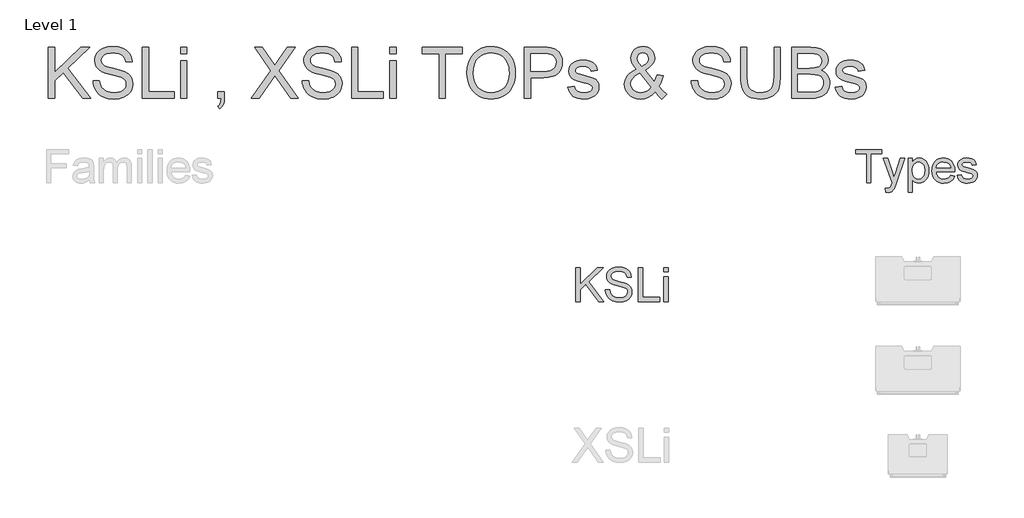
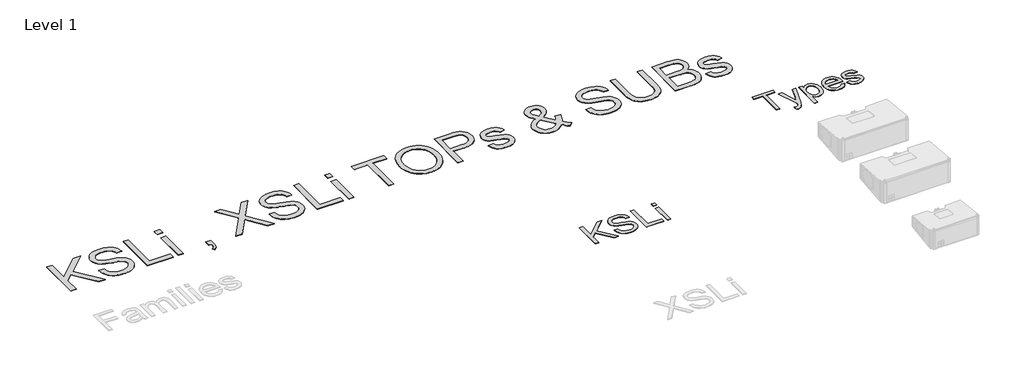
# One storey, part 51 of 52: 3 proxies.
"""IFC4 building model written with IfcOpenShell, lengths in millimetres."""

from ifc_helpers import new_model, si_unit, origin, origin_with_axes, place, context, project, spatial, polyline, outline, extrude, element, save

model = new_model("IFC4")

# Units and contexts
model_context = context("Model", 3, world=origin())
ifc_project = project(units=[si_unit("LENGTHUNIT", "METRE", prefix="MILLI")], contexts=[model_context])

# Site, building, storey
site = spatial("IfcSite", under=ifc_project)
building = spatial("IfcBuilding", under=site)
storey = spatial("IfcBuildingStorey", under=building, Name="Level 1", Elevation=0.0)

# Proxies
placement = place(None, origin())
element("IfcBuildingElementProxy", 1, Name="400mm Arial", ObjectType="400mm Arial", at=placement, inside=storey, context=model_context, shape_type="SweptSolid", body=[
    extrude(outline(polyline([(15654.0416973, 17351.3054836), (15654.0416973, 17694.0933624), (15525.4962428, 17694.0933624), (15525.4962428, 17743.0630593), (15831.5568488, 17743.0630593), (15831.5568488, 17694.0933624), (15703.0113943, 17694.0933624), (15703.0113943, 17351.3054836), (15654.0416973, 17351.3054836)])), origin_with_axes(), (0.0, 0.0, 1.0), 5.0),
    extrude(outline(polyline([(15880.5265458, 17241.1236654), (15874.4053337, 17288.2761275), (15899.2727579, 17283.9721502), (15912.3520666, 17285.3231209), (15922.5142352, 17289.3760328), (15936.7651821, 17304.4399533), (15950.1553337, 17340.4977184), (15953.9810912, 17352.3575669), (15849.9204852, 17639.0024533), (15901.5682125, 17639.0024533), (15956.7547655, 17479.2770745), (15975.9791973, 17415.386923), (15995.2036291, 17471.8168472), (16051.9204852, 17639.0024533), (16103.1856367, 17639.0024533), (16003.0464321, 17344.4191199), (15977.0312806, 17280.5289684), (15963.7128621, 17260.1328983), (15948.6250306, 17246.0015063), (15931.0982787, 17237.7522165), (15910.4630988, 17235.0024533), (15880.5265458, 17241.1236654)])), origin_with_axes(), (0.0, 0.0, 1.0), 5.0),
    extrude(outline(polyline([(16143.738667, 17241.1236654), (16143.738667, 17639.0024533), (16192.708364, 17639.0024533), (16192.708364, 17590.9891957), (16208.6809018, 17614.6730262), (16226.5663185, 17631.590048), (16247.4166973, 17641.740261), (16272.2841215, 17645.1236654), (16305.4008356, 17640.3892904), (16334.3570382, 17626.1861654), (16357.9332693, 17603.3750858), (16374.9100685, 17572.8168472), (16385.167881, 17536.7351711), (16388.5871518, 17497.353779), (16384.7255278, 17455.4736891), (16373.1406556, 17418.0171313), (16354.2031556, 17386.885029), (16328.2836481, 17363.9783055), (16298.0960297, 17349.88278), (16266.3541973, 17345.1842715), (16243.8420051, 17348.328566), (16223.7448223, 17357.7614495), (16206.5408687, 17372.000441), (16192.708364, 17389.5630593), (16192.708364, 17241.1236654), (16143.738667, 17241.1236654)]), holes=[polyline([(16192.708364, 17492.8585139), (16198.0046471, 17448.9579457), (16204.625001, 17431.9572355), (16213.8934965, 17418.2562411), (16237.3382172, 17400.1795366), (16250.7552686, 17395.6603605), (16265.302114, 17394.1539684), (16280.0581805, 17395.7141602), (16293.7203195, 17400.3947355), (16317.7628147, 17419.1170366), (16327.3242198, 17433.3141839), (16334.1537948, 17450.9425574), (16339.6174549, 17496.4929836), (16334.2853053, 17540.1544419), (16327.6201182, 17557.2866625), (16318.2888564, 17571.2865442), (16294.8800022, 17589.9371124), (16281.6153834, 17594.5997544), (16267.3106367, 17596.1539684), (16253.0507231, 17594.5011216), (16239.6336717, 17589.5425811), (16215.3281556, 17569.7084192), (16205.4319968, 17554.9882191), (16198.3633119, 17537.2731682), (16194.1221009, 17516.5632665), (16192.708364, 17492.8585139)])]), origin_with_axes(), (0.0, 0.0, 1.0), 5.0),
    extrude(outline(polyline([(16645.1041973, 17437.0024533), (16693.1174549, 17430.8812411), (16685.7558604, 17411.6508316), (16675.8178573, 17394.7039211), (16663.3034456, 17380.0405096), (16648.2126253, 17367.6605972), (16630.7008178, 17357.8272047), (16610.9234445, 17350.8033529), (16564.5720003, 17345.1842715), (16534.1871163, 17347.6082475), (16507.1139037, 17354.8801758), (16483.3523625, 17367.0000563), (16462.9024928, 17383.9678889), (16446.4577129, 17405.3114317), (16434.7114416, 17430.5584429), (16427.6636788, 17459.7089223), (16425.3144246, 17492.7628699), (16427.6875898, 17526.937645), (16434.8070856, 17557.0595082), (16446.6729118, 17583.1284594), (16463.2850685, 17605.1444987), (16483.6811386, 17622.6353841), (16506.8987049, 17635.1288737), (16532.9377674, 17642.6249675), (16561.7983261, 17645.1236654), (16589.7293453, 17642.6309452), (16614.9883119, 17635.1527847), (16637.5752259, 17622.6891839), (16657.4900875, 17605.2401427), (16673.7465683, 17583.2719253), (16685.3583403, 17557.2507961), (16692.3254035, 17527.1767549), (16694.6477579, 17493.0498018), (16694.3608261, 17479.8509381), (16474.2841215, 17479.8509381), (16477.1205621, 17460.3096858), (16482.7605657, 17443.1953983), (16491.2041322, 17428.5080759), (16502.4512617, 17416.2477184), (16530.8694672, 17399.6774059), (16565.5284397, 17394.1539684), (16591.5914132, 17396.7124438), (16613.5416973, 17404.3878699), (16631.379292, 17417.6584665), (16645.1041973, 17437.0024533)]), holes=[polyline([(16474.2841215, 17528.8206351), (16645.6780609, 17528.8206351), (16639.0547181, 17554.6923207), (16626.0710534, 17573.199423), (16612.7167683, 17583.2420366), (16597.5213375, 17590.4153321), (16561.6070382, 17596.1539684), (16528.5979236, 17591.5750148), (16501.3035344, 17577.838154), (16482.3301679, 17556.4258671), (16474.2841215, 17528.8206351)])]), origin_with_axes(), (0.0, 0.0, 1.0), 5.0),
    extrude(outline(polyline([(16725.2538185, 17437.0024533), (16774.2235155, 17443.1236654), (16781.9467636, 17422.1776427), (16796.8911291, 17406.7789684), (16819.152256, 17397.3102184), (16848.8257882, 17394.1539684), (16878.1406556, 17397.0471976), (16898.7519246, 17405.7268851), (16910.9465268, 17418.3040631), (16915.0113943, 17432.8897639), (16910.9226159, 17445.371298), (16898.6562806, 17454.8878699), (16848.2519246, 17468.8518851), (16774.5104473, 17492.8106919), (16755.8479236, 17504.8498728), (16742.3262617, 17520.7865442), (16734.1128384, 17539.6044893), (16731.3750306, 17560.2874911), (16733.5748412, 17579.2608576), (16740.1742731, 17596.775654), (16750.5755515, 17612.1384618), (16764.1809018, 17624.6558624), (16795.3130041, 17639.1459192), (16837.4441594, 17645.1236654), (16869.3175022, 17642.7206114), (16897.0303337, 17635.5114495), (16919.3153715, 17624.2015536), (16934.9053337, 17609.496298), (16945.2348791, 17590.3077326), (16951.738667, 17565.5479078), (16902.76897, 17559.4266957), (16896.5879804, 17574.8373254), (16884.3575117, 17586.4461086), (16865.9580089, 17593.7270035), (16841.269917, 17596.1539684), (16813.1505988, 17593.8346029), (16794.4043867, 17586.8765063), (16783.8596424, 17576.8338927), (16780.3447276, 17565.260976), (16786.1790079, 17551.010029), (16804.4470003, 17540.2022639), (16846.6259776, 17529.7770745), (16918.5023981, 17506.7268851), (16937.48772, 17495.7039211), (16951.8821329, 17480.6160896), (16960.9563517, 17461.4155688), (16963.9810912, 17438.0545366), (16960.43031, 17413.9044419), (16949.7779662, 17391.1890063), (16932.4305467, 17371.6895982), (16908.7945382, 17357.1875858), (16880.2448223, 17348.1851), (16848.1562806, 17345.1842715), (16821.8003976, 17346.630886), (16798.7800969, 17350.9707298), (16779.0953786, 17358.2038027), (16762.7462428, 17368.3301048), (16749.3919577, 17381.3018141), (16738.691792, 17397.0711086), (16730.6457456, 17415.6379883), (16725.2538185, 17437.0024533)])), origin_with_axes(), (0.0, 0.0, 1.0), 5.0),
])
element("IfcBuildingElementProxy", 2, Name="400mm Arial", ObjectType="400mm Arial", at=placement, inside=storey, context=model_context, shape_type="SweptSolid", body=[
    extrude(outline(polyline([(12208.4691439, 15943.8997901), (12208.4691439, 16345.7250307), (12258.697299, 16345.7250307), (12258.697299, 16149.0307906), (12464.7112163, 16345.7250307), (12534.9521519, 16345.7250307), (12361.9985632, 16180.5214894), (12541.2306713, 15943.8997901), (12479.8189036, 15943.8997901), (12326.3875861, 16146.578244), (12258.697299, 16082.0272165), (12258.697299, 15943.8997901), (12208.4691439, 15943.8997901)])), origin_with_axes(), (0.0, 0.0, 1.0), 5.0),
    extrude(outline(polyline([(12560.0662294, 16082.0272165), (12610.2943845, 16082.0272165), (12616.0578691, 16054.154024), (12626.4811923, 16031.7500105), (12642.7415765, 16013.9690474), (12666.016244, 15999.9650062), (12694.465785, 15990.8783209), (12726.2507894, 15987.8494258), (12754.2343465, 15990.1425569), (12778.7352874, 15997.0219502), (12798.5886524, 16007.9112573), (12812.6294819, 16022.2341296), (12820.9804032, 16038.6784548), (12823.7640436, 16055.9321204), (12821.6793789, 16072.7443275), (12815.425385, 16087.2756663), (12802.7211935, 16099.6732896), (12781.2859359, 16110.08435), (12708.1509952, 16129.2632647), (12660.1423949, 16141.9551936), (12629.4242483, 16154.0339857), (12604.4205353, 16170.932032), (12586.7008859, 16191.4107964), (12576.1426726, 16215.0288205), (12572.6232682, 16241.3446459), (12576.9765385, 16270.7629428), (12590.0363493, 16298.1946769), (12611.4593442, 16321.444819), (12640.9021665, 16338.3183399), (12676.2433635, 16348.5822475), (12715.3614823, 16352.0035501), (12757.7414882, 16348.422832), (12794.8239933, 16337.6806777), (12825.2846225, 16319.9978165), (12847.7990006, 16295.5949775), (12862.0482965, 16265.9927396), (12867.7136793, 16232.7116818), (12817.4855242, 16232.7116818), (12808.2639489, 16262.6818016), (12799.9007648, 16274.5398646), (12789.0359832, 16284.313263), (12758.992287, 16297.409862), (12717.3235196, 16301.775395), (12674.6737337, 16297.4589129), (12658.3704299, 16292.0633103), (12645.4148523, 16284.5094667), (12628.4922805, 16265.4531793), (12622.8514233, 16242.8161739), (12626.8490743, 16223.5146319), (12638.8420273, 16207.9900117), (12667.1934664, 16194.1085977), (12720.8551868, 16179.9328782), (12776.2336898, 16166.4683972), (12809.7354768, 16154.7206988), (12838.3689588, 16136.4982773), (12858.3449511, 16114.0084247), (12870.0803868, 16087.4963955), (12873.9921987, 16057.2074446), (12869.4917756, 16026.2440433), (12855.9905064, 15997.1200521), (12834.040214, 15972.0550255), (12804.1927214, 15953.2685182), (12768.2997014, 15941.5330826), (12728.2128267, 15937.6212707), (12679.0024785, 15941.8396509), (12638.4986708, 15954.4947916), (12606.2354198, 15975.6357435), (12581.7467417, 16005.3115578), (12566.0259178, 16041.4620952), (12560.0662294, 16082.0272165)])), origin_with_axes(), (0.0, 0.0, 1.0), 5.0),
    extrude(outline(polyline([(12949.3344313, 15943.8997901), (12949.3344313, 16345.7250307), (12999.5625863, 16345.7250307), (12999.5625863, 15994.1279452), (13200.4752066, 15994.1279452), (13200.4752066, 15943.8997901), (12949.3344313, 15943.8997901)])), origin_with_axes(), (0.0, 0.0, 1.0), 5.0),
    extrude(outline(polyline([(13250.7033617, 16295.4968756), (13250.7033617, 16345.7250307), (13300.9315168, 16345.7250307), (13300.9315168, 16295.4968756), (13250.7033617, 16295.4968756)])), origin_with_axes(), (0.0, 0.0, 1.0), 5.0),
    extrude(outline(polyline([(13250.7033617, 15943.8997901), (13250.7033617, 16238.9902012), (13300.9315168, 16238.9902012), (13300.9315168, 15943.8997901), (13250.7033617, 15943.8997901)])), origin_with_axes(), (0.0, 0.0, 1.0), 5.0),
])
element("IfcBuildingElementProxy", 3, Name="600mm Arial", ObjectType="600mm Arial", at=placement, inside=storey, context=model_context, shape_type="SweptSolid", body=[
    extrude(outline(polyline([(5966.3550777, 18351.3054836), (5966.3550777, 18954.0433445), (6041.6973103, 18954.0433445), (6041.6973103, 18659.0019843), (6350.7181862, 18954.0433445), (6456.0795896, 18954.0433445), (6196.6492066, 18706.2380325), (6465.4973687, 18351.3054836), (6373.3797171, 18351.3054836), (6143.2327409, 18655.3231644), (6041.6973103, 18558.4966233), (6041.6973103, 18351.3054836), (5966.3550777, 18351.3054836)])), origin_with_axes(), (0.0, 0.0, 1.0), 5.0),
    extrude(outline(polyline([(6493.7507059, 18558.4966233), (6569.0929386, 18558.4966233), (6577.7381654, 18516.6868345), (6593.3731502, 18483.0808142), (6617.7637265, 18456.4093696), (6652.6757279, 18435.4033077), (6695.3500393, 18421.7732797), (6743.0275459, 18417.2299371), (6785.0028815, 18420.6696338), (6821.7542928, 18430.9887237), (6851.5343403, 18447.3226843), (6872.5955846, 18468.8069928), (6885.1219665, 18493.4734806), (6889.2974272, 18519.353979), (6886.1704302, 18544.5722897), (6876.7894393, 18566.369298), (6857.733152, 18584.9657328), (6825.5802656, 18600.5823235), (6715.8778546, 18629.3506955), (6643.8649541, 18648.3885888), (6597.7877342, 18666.506777), (6560.2821648, 18691.8538465), (6533.7026906, 18722.5719931), (6517.8653707, 18757.9990292), (6512.5862641, 18797.4727673), (6514.2187404, 18819.9089705), (6519.1161695, 18841.6002126), (6527.2785513, 18862.5464937), (6538.7058858, 18882.7478138), (6553.2694142, 18901.3810369), (6570.840378, 18917.6230269), (6591.4187771, 18931.4737841), (6615.0046116, 18942.9333082), (6668.0164071, 18958.3291697), (6726.6935853, 18963.4611235), (6790.2635941, 18958.0900464), (6845.8873517, 18941.976815), (6870.2227457, 18929.9746649), (6891.5782955, 18915.4525232), (6909.9540012, 18898.4103897), (6925.3498627, 18878.8482647), (6937.6463184, 18857.336365), (6946.7238066, 18834.4449078), (6952.5823274, 18810.1738932), (6955.2218807, 18784.5233211), (6879.8796481, 18784.5233211), (6874.8396647, 18808.5644095), (6866.0472851, 18829.4785009), (6853.502509, 18847.2655954), (6837.2053366, 18861.9256929), (6816.8522653, 18873.385217), (6792.1397922, 18881.5705914), (6763.0679176, 18886.4818161), (6729.6366412, 18888.1188909), (6695.1385071, 18886.5002102), (6665.6619623, 18881.6441678), (6641.2070067, 18873.5507639), (6621.7736403, 18862.2199985), (6606.96639, 18848.5991676), (6596.3897826, 18833.6355674), (6590.0438182, 18817.329198), (6587.9284967, 18799.6800593), (6589.4276158, 18784.4957299), (6593.9249732, 18770.7277463), (6601.4205689, 18758.3761083), (6611.9144028, 18747.440816), (6628.4323044, 18737.0849378), (6654.4415614, 18726.6186951), (6734.934142, 18705.3551157), (6818.0018965, 18685.1583942), (6868.254577, 18667.5368466), (6911.2048, 18640.2032144), (6927.8100735, 18624.1359682), (6941.1687885, 18606.4684354), (6951.4372947, 18587.2925864), (6958.7719419, 18566.7003917), (6964.6396598, 18521.2669653), (6962.9520011, 18497.699525), (6957.8890252, 18474.8218635), (6949.4507319, 18452.6339806), (6937.6371213, 18431.1358765), (6922.6551271, 18411.1598842), (6904.7116828, 18393.5383366), (6883.8067884, 18378.2712338), (6859.9404439, 18365.3585758), (6833.8070267, 18355.0900696), (6806.1009139, 18347.7554223), (6745.9706018, 18341.8877045), (6707.4303643, 18343.4695971), (6672.1550795, 18348.2152748), (6640.1447474, 18356.1247377), (6611.399368, 18367.1979858), (6585.7441974, 18381.4534131), (6563.0044915, 18398.9094137), (6543.1802505, 18419.5659878), (6526.2714743, 18443.4231352), (6512.6506434, 18469.7083037), (6502.6902384, 18497.6489413), (6496.3902593, 18527.2450478), (6493.7507059, 18558.4966233)])), origin_with_axes(), (0.0, 0.0, 1.0), 5.0),
    extrude(outline(polyline([(7077.6530087, 18351.3054836), (7077.6530087, 18954.0433445), (7152.9952413, 18954.0433445), (7152.9952413, 18426.6477162), (7454.3641717, 18426.6477162), (7454.3641717, 18351.3054836), (7077.6530087, 18351.3054836)])), origin_with_axes(), (0.0, 0.0, 1.0), 5.0),
    extrude(outline(polyline([(7529.7064044, 18351.3054836), (7529.7064044, 18793.9411002), (7605.048637, 18793.9411002), (7605.048637, 18351.3054836), (7529.7064044, 18351.3054836)])), origin_with_axes(), (0.0, 0.0, 1.0), 5.0),
    extrude(outline(polyline([(7529.7064044, 18878.7011119), (7529.7064044, 18954.0433445), (7605.048637, 18954.0433445), (7605.048637, 18878.7011119), (7529.7064044, 18878.7011119)])), origin_with_axes(), (0.0, 0.0, 1.0), 5.0),
    extrude(outline(polyline([(7972.342021, 18351.3054836), (7972.342021, 18426.6477162), (8047.6842536, 18426.6477162), (8047.6842536, 18351.3054836), (8044.2997392, 18308.2081078), (8034.1461961, 18274.2709938), (8016.6350132, 18248.2433426), (7991.1775791, 18228.8743556), (7972.342021, 18257.1276928), (7988.6759815, 18270.7761148), (8000.006747, 18289.6484612), (8006.8861403, 18315.804871), (8009.8659845, 18351.3054836), (7972.342021, 18351.3054836)])), origin_with_axes(), (0.0, 0.0, 1.0), 5.0),
    extrude(outline(polyline([(8367.8887422, 18351.3054836), (8600.2430103, 18679.7505289), (8405.5598585, 18954.0433445), (8495.9116765, 18954.0433445), (8605.5405111, 18799.6800593), (8631.6969209, 18760.5742032), (8642.4758634, 18739.4945649), (8685.738786, 18800.7101289), (8794.1903982, 18954.0433445), (8885.8665914, 18954.0433445), (8691.1834395, 18678.8676121), (8923.5377077, 18351.3054836), (8833.1858897, 18351.3054836), (8678.3811461, 18569.6802359), (8646.1546833, 18615.0032977), (8610.690859, 18565.265652), (8459.5649354, 18351.3054836), (8367.8887422, 18351.3054836)])), origin_with_axes(), (0.0, 0.0, 1.0), 5.0),
    extrude(outline(polyline([(8970.6266031, 18558.4966233), (9045.9688357, 18558.4966233), (9054.6140626, 18516.6868345), (9070.2490474, 18483.0808142), (9094.6396236, 18456.4093696), (9129.551625, 18435.4033077), (9172.2259364, 18421.7732797), (9219.903443, 18417.2299371), (9261.8787786, 18420.6696338), (9298.63019, 18430.9887237), (9328.4102375, 18447.3226843), (9349.4714817, 18468.8069928), (9361.9978636, 18493.4734806), (9366.1733243, 18519.353979), (9363.0463273, 18544.5722897), (9353.6653364, 18566.369298), (9334.6090491, 18584.9657328), (9302.4561627, 18600.5823235), (9192.7537518, 18629.3506955), (9120.7408512, 18648.3885888), (9074.6636313, 18666.506777), (9037.1580619, 18691.8538465), (9010.5785877, 18722.5719931), (8994.7412679, 18757.9990292), (8989.4621612, 18797.4727673), (8991.0946376, 18819.9089705), (8995.9920666, 18841.6002126), (9004.1544484, 18862.5464937), (9015.5817829, 18882.7478138), (9030.1453114, 18901.3810369), (9047.7162752, 18917.6230269), (9068.2946743, 18931.4737841), (9091.8805087, 18942.9333082), (9144.8923042, 18958.3291697), (9203.5694824, 18963.4611235), (9267.1394912, 18958.0900464), (9322.7632488, 18941.976815), (9347.0986428, 18929.9746649), (9368.4541927, 18915.4525232), (9386.8298983, 18898.4103897), (9402.2257598, 18878.8482647), (9414.5222155, 18857.336365), (9423.5997037, 18834.4449078), (9429.4582245, 18810.1738932), (9432.0977778, 18784.5233211), (9356.7555452, 18784.5233211), (9351.7155619, 18808.5644095), (9342.9231822, 18829.4785009), (9330.3784061, 18847.2655954), (9314.0812338, 18861.9256929), (9293.7281624, 18873.385217), (9269.0156894, 18881.5705914), (9239.9438147, 18886.4818161), (9206.5125384, 18888.1188909), (9172.0144043, 18886.5002102), (9142.5378594, 18881.6441678), (9118.0829038, 18873.5507639), (9098.6495374, 18862.2199985), (9083.8422871, 18848.5991676), (9073.2656797, 18833.6355674), (9066.9197153, 18817.329198), (9064.8043938, 18799.6800593), (9066.303513, 18784.4957299), (9070.8008704, 18770.7277463), (9078.296466, 18758.3761083), (9088.7902999, 18747.440816), (9105.3082015, 18737.0849378), (9131.3174586, 18726.6186951), (9211.8100391, 18705.3551157), (9294.8777936, 18685.1583942), (9345.1304742, 18667.5368466), (9388.0806971, 18640.2032144), (9404.6859707, 18624.1359682), (9418.0446856, 18606.4684354), (9428.3131918, 18587.2925864), (9435.6478391, 18566.7003917), (9441.5155569, 18521.2669653), (9439.8278982, 18497.699525), (9434.7649223, 18474.8218635), (9426.326629, 18452.6339806), (9414.5130184, 18431.1358765), (9399.5310242, 18411.1598842), (9381.5875799, 18393.5383366), (9360.6826855, 18378.2712338), (9336.8163411, 18365.3585758), (9310.6829238, 18355.0900696), (9282.9768111, 18347.7554223), (9222.846499, 18341.8877045), (9184.3062614, 18343.4695971), (9149.0309766, 18348.2152748), (9117.0206445, 18356.1247377), (9088.2752651, 18367.1979858), (9062.6200945, 18381.4534131), (9039.8803887, 18398.9094137), (9020.0561476, 18419.5659878), (9003.1473714, 18443.4231352), (8989.5265406, 18469.7083037), (8979.5661355, 18497.6489413), (8973.2661564, 18527.2450478), (8970.6266031, 18558.4966233)])), origin_with_axes(), (0.0, 0.0, 1.0), 5.0),
    extrude(outline(polyline([(9554.5289058, 18351.3054836), (9554.5289058, 18954.0433445), (9629.8711384, 18954.0433445), (9629.8711384, 18426.6477162), (9931.2400689, 18426.6477162), (9931.2400689, 18351.3054836), (9554.5289058, 18351.3054836)])), origin_with_axes(), (0.0, 0.0, 1.0), 5.0),
    extrude(outline(polyline([(10006.5823015, 18878.7011119), (10006.5823015, 18954.0433445), (10081.9245341, 18954.0433445), (10081.9245341, 18878.7011119), (10006.5823015, 18878.7011119)])), origin_with_axes(), (0.0, 0.0, 1.0), 5.0),
    extrude(outline(polyline([(10006.5823015, 18351.3054836), (10006.5823015, 18793.9411002), (10081.9245341, 18793.9411002), (10081.9245341, 18351.3054836), (10006.5823015, 18351.3054836)])), origin_with_axes(), (0.0, 0.0, 1.0), 5.0),
    extrude(outline(polyline([(10590.4846042, 18351.3054836), (10590.4846042, 18878.7011119), (10392.7112436, 18878.7011119), (10392.7112436, 18954.0433445), (10863.6001974, 18954.0433445), (10863.6001974, 18878.7011119), (10665.8268368, 18878.7011119), (10665.8268368, 18351.3054836), (10590.4846042, 18351.3054836)])), origin_with_axes(), (0.0, 0.0, 1.0), 5.0),
    extrude(outline(polyline([(10920.1068719, 18644.7281629), (10925.1284611, 18715.4258853), (10940.1932288, 18778.0118098), (10965.301175, 18832.4859362), (10981.62134, 18856.6810752), (11000.4522997, 18878.8482647), (11043.5404783, 18915.8663904), (11092.4595866, 18942.3079088), (11147.2096246, 18958.1728199), (11207.7905921, 18963.4611235), (11248.3403851, 18960.9779201), (11286.8484329, 18953.5283097), (11323.3147357, 18941.1122923), (11357.7392934, 18923.7298681), (11389.1564158, 18901.9052687), (11416.6004126, 18876.1627261), (11440.0712839, 18846.5022402), (11459.5690296, 18812.9238111), (11474.8913147, 18776.1907939), (11485.8358041, 18737.0665437), (11492.4024977, 18695.5510606), (11494.5913956, 18651.6443444), (11492.2875346, 18607.1582142), (11485.3759516, 18565.081711), (11473.8566466, 18525.4148348), (11457.7296197, 18488.1575858), (11437.3765483, 18454.2940481), (11413.17911, 18424.8083062), (11385.137305, 18399.70036), (11353.251133, 18378.9702096), (11318.7759916, 18362.7466136), (11282.9672778, 18351.1583308), (11245.8249919, 18344.2053611), (11207.3491337, 18341.8877045), (11166.091168, 18344.4490829), (11127.0772824, 18352.1332181), (11090.307477, 18364.94011), (11055.7817517, 18382.8697588), (11024.4014175, 18405.227787), (10997.0677853, 18431.3198175), (10973.780855, 18461.1458503), (10954.5406267, 18494.7058853), (10939.475859, 18530.6525547), (10928.7153106, 18567.6384908), (10922.2589816, 18605.6636936), (10920.1068719, 18644.7281629)]), holes=[polyline([(10995.4491045, 18643.9923989), (10999.2152964, 18594.043221), (11010.5138722, 18549.7042436), (11029.3448318, 18510.9754665), (11055.7081753, 18477.8568899), (11087.7552956, 18451.3325981), (11123.6375857, 18432.3866753), (11163.3550456, 18421.0191217), (11206.9076753, 18417.2299371), (11251.2052661, 18421.0559099), (11291.3917755, 18432.5338281), (11327.4672037, 18451.6636919), (11359.4315505, 18478.4455011), (11385.601756, 18512.2630535), (11404.2947599, 18552.5001467), (11415.5105622, 18599.1567808), (11419.249163, 18652.2329556), (11417.6488763, 18686.7126956), (11412.8480162, 18718.9299614), (11404.8465829, 18748.8847528), (11393.6445761, 18776.57707), (11379.3661562, 18801.6436294), (11362.1354832, 18823.7211477), (11341.9525573, 18842.8096247), (11318.8173783, 18858.9090605), (11293.4473162, 18871.6883613), (11266.5597409, 18880.8164333), (11238.1546523, 18886.2932765), (11208.2320505, 18888.1188909), (11166.1923355, 18884.6010194), (11127.187647, 18874.0474046), (11091.2179849, 18856.4580467), (11058.2833493, 18831.8329457), (11030.7933672, 18798.985682), (11011.1576657, 18756.7298364), (10999.3762448, 18705.0654087), (10995.4491045, 18643.9923989)])]), origin_with_axes(), (0.0, 0.0, 1.0), 5.0),
    extrude(outline(polyline([(11598.1869654, 18351.3054836), (11598.1869654, 18954.0433445), (11821.5649129, 18954.0433445), (11873.583427, 18952.6086047), (11911.6224253, 18948.3043853), (11951.7767451, 18937.5806252), (11984.8309423, 18920.1246245), (12011.4472047, 18895.145437), (12032.2877197, 18861.8521165), (12045.7522007, 18822.5807135), (12050.2403611, 18779.6672788), (12047.2099332, 18742.6675471), (12038.1186493, 18708.6292655), (12022.9665097, 18677.5524339), (12001.7535141, 18649.4370525), (11972.6310557, 18626.1317281), (11933.7505273, 18609.4850678), (11885.111929, 18599.4970716), (11826.7152608, 18596.1677396), (11673.529198, 18596.1677396), (11673.529198, 18351.3054836), (11598.1869654, 18351.3054836)]), holes=[polyline([(11673.529198, 18671.5099722), (11831.1298448, 18671.5099722), (11867.3662213, 18673.2390176), (11897.9372151, 18678.4261537), (11922.8428262, 18687.0713806), (11942.0830545, 18699.1746982), (11956.4396494, 18714.4142099), (11966.69436, 18732.4680188), (11972.8471864, 18753.336125), (11974.8981285, 18777.0185284), (11970.0604802, 18810.8636719), (11955.5475355, 18839.4113148), (11933.1619161, 18860.8956233), (11904.7062438, 18873.5507639), (11875.6435662, 18877.4135249), (11829.3640112, 18878.7011119), (11673.529198, 18878.7011119), (11673.529198, 18671.5099722)])]), origin_with_axes(), (0.0, 0.0, 1.0), 5.0),
    extrude(outline(polyline([(12116.1648146, 18483.1543906), (12191.5070472, 18492.5721697), (12196.0595869, 18475.3920805), (12203.3896357, 18460.3457069), (12213.4971935, 18447.4330489), (12226.3822604, 18436.6541065), (12242.0816245, 18428.1560324), (12260.6320741, 18422.0859794), (12306.2862297, 18417.2299371), (12351.3885623, 18421.6813092), (12368.9181394, 18427.2455244), (12383.0999903, 18435.0354257), (12401.8619721, 18454.3860186), (12406.5524675, 18465.2201434), (12408.115966, 18476.8268203), (12406.5432705, 18486.9987575), (12401.8251839, 18496.0302605), (12382.9528375, 18510.6719639), (12354.7362885, 18520.2368958), (12305.4033129, 18532.1562724), (12236.646168, 18552.0402942), (12191.9485056, 18569.0180483), (12163.2353159, 18587.5409068), (12142.4315891, 18612.0602418), (12129.7948425, 18641.0125548), (12125.5825937, 18672.8343474), (12128.9671081, 18702.0257837), (12139.1206511, 18728.9731398), (12155.1235179, 18752.609558), (12176.0560034, 18771.8681805), (12196.8597303, 18783.9898922), (12223.9542392, 18794.1618294), (12255.2793911, 18801.0596168), (12288.7750468, 18803.3588792), (12337.8137167, 18799.6616652), (12380.45124, 18788.570023), (12414.7378419, 18771.1692047), (12438.723748, 18748.544462), (12454.6162502, 18719.0219319), (12464.6226405, 18680.9277513), (12389.2804078, 18671.5099722), (12379.7706583, 18695.2199668), (12360.9534942, 18713.0806376), (12332.6449747, 18724.2826444), (12294.6611587, 18728.0166466), (12251.3982361, 18724.4481913), (12222.5562876, 18713.7428252), (12206.3326916, 18698.2917814), (12200.9248263, 18680.4862929), (12203.1689065, 18668.89801), (12209.901147, 18658.5605259), (12221.4158534, 18649.3266879), (12238.0073314, 18641.9322598), (12302.9017154, 18625.8926048), (12413.4870431, 18590.4287804), (12442.6968735, 18573.4694205), (12464.8433697, 18550.2560666), (12478.8044914, 18520.7151424), (12483.4581986, 18484.7730714), (12477.995151, 18447.6169899), (12461.6060081, 18412.6682004), (12434.9161693, 18382.6674237), (12398.5510341, 18360.3553807), (12354.6259239, 18346.5046235), (12305.2561601, 18341.8877045), (12264.7063672, 18344.1133906), (12229.2885281, 18350.7904488), (12199.0026429, 18361.9188791), (12173.8487115, 18377.4986816), (12153.302502, 18397.4562799), (12136.8397828, 18421.7180974), (12124.4605536, 18450.2841344), (12116.1648146, 18483.1543906)])), origin_with_axes(), (0.0, 0.0, 1.0), 5.0),
    extrude(outline(polyline([(13149.3246099, 18425.7647994), (13111.0280942, 18389.0685704), (13069.4206405, 18362.8569782), (13024.4286725, 18347.1300229), (12975.9786138, 18341.8877045), (12932.0167153, 18345.7688595), (12892.8372828, 18357.4123247), (12858.4403163, 18376.8180999), (12828.8258157, 18403.9861853), (12809.5763903, 18430.0414276), (12795.8268007, 18457.586592), (12787.577047, 18486.6216784), (12784.8271291, 18517.146687), (12787.0390196, 18544.2136048), (12793.674691, 18569.9377533), (12804.7341435, 18594.3191325), (12820.217377, 18617.3577425), (12840.0968003, 18639.0443861), (12864.3448223, 18659.3698663), (12892.961443, 18678.3341832), (12925.9466624, 18695.9373367), (12893.0764061, 18738.4644953), (12873.3395371, 18772.1624861), (12863.4619055, 18800.9308581), (12860.1693617, 18828.6691605), (12862.7629297, 18855.0003143), (12870.5436339, 18879.5472404), (12883.5114743, 18902.3099389), (12901.6664507, 18923.2884097), (12923.7485675, 18940.863972), (12948.4978287, 18953.4179451), (12975.9142344, 18960.9503289), (13005.9977846, 18963.4611235), (13034.7201713, 18961.0606935), (13060.7018372, 18953.8594035), (13083.9427823, 18941.8572534), (13104.4430065, 18925.0542433), (13121.1816372, 18904.8851129), (13133.1378021, 18882.784602), (13140.311501, 18858.7527107), (13142.702734, 18832.7894389), (13140.9323019, 18811.4062979), (13135.6210056, 18790.8141032), (13126.7688451, 18771.0128548), (13114.3758203, 18752.0025527), (13078.9671783, 18716.3547874), (13029.3950795, 18683.8708072), (13138.4353028, 18548.0487746), (13157.0133436, 18586.8603251), (13170.9560712, 18631.4844111), (13246.2983038, 18615.1504505), (13223.1217381, 18545.363236), (13208.9398872, 18516.2913614), (13193.0289909, 18491.1006417), (13235.8504551, 18441.1422668), (13283.9694201, 18399.8659069), (13227.4627457, 18341.8877045), (13189.0190772, 18377.0572232), (13149.3246099, 18425.7647994)]), holes=[polyline([(12991.2825048, 18731.401161), (13030.6826664, 18756.3987426), (13053.2338327, 18778.1221744), (13063.8288342, 18799.256995), (13067.3605014, 18822.488743), (13062.7067941, 18848.8106997), (13048.7456724, 18869.7983676), (13027.7947928, 18883.5387601), (13002.1718118, 18888.1188909), (12975.9970079, 18883.5755483), (12954.5678816, 18869.9455204), (12940.2756661, 18849.7671929), (12935.5115943, 18825.5789518), (12941.9863174, 18797.9878021), (12961.5576395, 18767.3064437), (12991.2825048, 18731.401161)]), polyline([(13098.8512001, 18480.0641819), (12964.3535427, 18647.9655245), (12912.9788221, 18615.1872387), (12881.5800938, 18584.8369741), (12865.5220447, 18555.8478729), (12860.1693617, 18527.1530773), (12861.9995746, 18509.5499238), (12867.4902134, 18491.6156765), (12889.4527685, 18454.7539006), (12905.6211822, 18438.3371666), (12924.8430164, 18426.610928), (12947.1182712, 18419.5751848), (12972.4469466, 18417.2299371), (13006.5312135, 18421.6077329), (13041.6823381, 18434.7411201), (13073.8168304, 18454.827477), (13098.8512001, 18480.0641819)])]), origin_with_axes(), (0.0, 0.0, 1.0), 5.0),
    extrude(outline(polyline([(13575.9205715, 18558.4966233), (13651.2628041, 18558.4966233), (13659.908031, 18516.6868345), (13675.5430158, 18483.0808142), (13699.9335921, 18456.4093696), (13734.8455934, 18435.4033077), (13777.5199048, 18421.7732797), (13825.1974114, 18417.2299371), (13867.1727471, 18420.6696338), (13903.9241584, 18430.9887237), (13933.7042059, 18447.3226843), (13954.7654501, 18468.8069928), (13967.2918321, 18493.4734806), (13971.4672927, 18519.353979), (13968.3402957, 18544.5722897), (13958.9593049, 18566.369298), (13939.9030175, 18584.9657328), (13907.7501311, 18600.5823235), (13798.0477202, 18629.3506955), (13726.0348196, 18648.3885888), (13679.9575997, 18666.506777), (13642.4520303, 18691.8538465), (13615.8725562, 18722.5719931), (13600.0352363, 18757.9990292), (13594.7561296, 18797.4727673), (13596.388606, 18819.9089705), (13601.2860351, 18841.6002126), (13609.4484168, 18862.5464937), (13620.8757513, 18882.7478138), (13635.4392798, 18901.3810369), (13653.0102436, 18917.6230269), (13673.5886427, 18931.4737841), (13697.1744771, 18942.9333082), (13750.1862726, 18958.3291697), (13808.8634508, 18963.4611235), (13872.4334596, 18958.0900464), (13928.0572173, 18941.976815), (13952.3926113, 18929.9746649), (13973.7481611, 18915.4525232), (13992.1238667, 18898.4103897), (14007.5197282, 18878.8482647), (14019.8161839, 18857.336365), (14028.8936721, 18834.4449078), (14034.7521929, 18810.1738932), (14037.3917462, 18784.5233211), (13962.0495136, 18784.5233211), (13957.0095303, 18808.5644095), (13948.2171506, 18829.4785009), (13935.6723746, 18847.2655954), (13919.3752022, 18861.9256929), (13899.0221308, 18873.385217), (13874.3096578, 18881.5705914), (13845.2377831, 18886.4818161), (13811.8065068, 18888.1188909), (13777.3083727, 18886.5002102), (13747.8318278, 18881.6441678), (13723.3768722, 18873.5507639), (13703.9435058, 18862.2199985), (13689.1362555, 18848.5991676), (13678.5596481, 18833.6355674), (13672.2136837, 18817.329198), (13670.0983623, 18799.6800593), (13671.5974814, 18784.4957299), (13676.0948388, 18770.7277463), (13683.5904344, 18758.3761083), (13694.0842683, 18747.440816), (13710.6021699, 18737.0849378), (13736.611427, 18726.6186951), (13817.1040075, 18705.3551157), (13900.171762, 18685.1583942), (13950.4244426, 18667.5368466), (13993.3746655, 18640.2032144), (14009.9799391, 18624.1359682), (14023.338654, 18606.4684354), (14033.6071602, 18587.2925864), (14040.9418075, 18566.7003917), (14046.8095253, 18521.2669653), (14045.1218667, 18497.699525), (14040.0588907, 18474.8218635), (14031.6205974, 18452.6339806), (14019.8069869, 18431.1358765), (14004.8249926, 18411.1598842), (13986.8815483, 18393.5383366), (13965.9766539, 18378.2712338), (13942.1103095, 18365.3585758), (13915.9768923, 18355.0900696), (13888.2707795, 18347.7554223), (13828.1404674, 18341.8877045), (13789.6002299, 18343.4695971), (13754.324945, 18348.2152748), (13722.3146129, 18356.1247377), (13693.5692335, 18367.1979858), (13667.9140629, 18381.4534131), (13645.1743571, 18398.9094137), (13625.3501161, 18419.5659878), (13608.4413399, 18443.4231352), (13594.820509, 18469.7083037), (13584.860104, 18497.6489413), (13578.5601248, 18527.2450478), (13575.9205715, 18558.4966233)])), origin_with_axes(), (0.0, 0.0, 1.0), 5.0),
    extrude(outline(polyline([(14555.3695954, 18954.0433445), (14630.7118281, 18954.0433445), (14630.7118281, 18606.3212826), (14625.5982683, 18524.890603), (14619.2063187, 18491.1972108), (14610.2575891, 18462.1851169), (14597.9795275, 18436.755274), (14581.5995817, 18413.8086346), (14561.1177516, 18393.3451986), (14536.5340373, 18375.3649661), (14507.8208476, 18360.7186641), (14474.9505913, 18350.2570199), (14437.9232685, 18343.9800333), (14396.7388791, 18341.8877045), (14356.5707638, 18343.7087204), (14320.2378182, 18349.171768), (14287.7400425, 18358.2768474), (14259.0774365, 18371.0239585), (14234.2454019, 18387.2245619), (14213.2393399, 18406.6901179), (14196.0592508, 18429.4206267), (14182.7051343, 18455.4160882), (14172.6941455, 18485.5686162), (14165.5434393, 18520.7703247), (14161.2530155, 18561.0212134), (14159.8228742, 18606.3212826), (14159.8228742, 18954.0433445), (14235.1651068, 18954.0433445), (14235.1651068, 18608.970033), (14238.880715, 18541.2613518), (14250.0275394, 18494.1172741), (14258.792328, 18476.7394484), (14270.224261, 18461.467747), (14284.3233384, 18448.3021701), (14301.0895604, 18437.2427176), (14341.3358507, 18422.2331322), (14389.6755448, 18417.2299371), (14431.200225, 18419.7039435), (14466.3053644, 18427.1259628), (14494.990963, 18439.4959949), (14517.2570207, 18456.8140398), (14533.9312722, 18481.1678279), (14545.8414518, 18514.6450894), (14552.9875595, 18557.2458245), (14555.3695954, 18608.970033), (14555.3695954, 18954.0433445)])), origin_with_axes(), (0.0, 0.0, 1.0), 5.0),
    extrude(outline(polyline([(14762.5607351, 18351.3054836), (14762.5607351, 18954.0433445), (14992.5605585, 18954.0433445), (15055.8178676, 18949.6103664), (15105.2060254, 18936.3114323), (15125.2831853, 18926.2544583), (15143.0610827, 18913.8154483), (15158.5397177, 18898.9944024), (15171.7190902, 18881.7913206), (15189.763702, 18844.1202043), (15195.7785726, 18804.6832544), (15190.7201952, 18768.3916956), (15175.5450629, 18734.2706406), (15150.1428111, 18704.4170166), (15114.4030753, 18680.9277513), (15137.1427811, 18671.2340607), (15157.0957809, 18658.6341023), (15174.2620745, 18643.1278762), (15188.6416619, 18624.7153824), (15200.0046171, 18603.9576408), (15208.1210136, 18581.4156716), (15212.9908515, 18557.0894746), (15214.6141308, 18530.97905), (15210.1811528, 18488.9485321), (15196.8822186, 18449.9714347), (15177.034985, 18416.8252669), (15152.9571084, 18392.2875378), (15123.4713665, 18374.5188375), (15087.4005369, 18361.6797558), (15043.5673971, 18353.8990516), (14990.7947249, 18351.3054836), (14762.5607351, 18351.3054836)]), holes=[polyline([(14837.9029677, 18426.6477162), (14992.4134057, 18426.6477162), (15048.331469, 18429.5907721), (15074.2855437, 18436.1206776), (15095.6410936, 18445.9983091), (15113.0051237, 18460.1433718), (15126.9846396, 18479.4755707), (15136.2000835, 18503.130383), (15139.2718982, 18530.243286), (15135.6666546, 18561.7339848), (15124.850924, 18588.8100997), (15105.9601835, 18609.9817085), (15078.1299106, 18623.7588892), (15038.7113548, 18631.3188642), (14985.0557658, 18633.8388559), (14837.9029677, 18633.8388559), (14837.9029677, 18426.6477162)]), polyline([(14837.9029677, 18709.1810885), (14975.4908339, 18709.1810885), (15023.6097989, 18710.7997693), (15055.8362617, 18715.6558116), (15083.9608402, 18726.8210301), (15104.1759559, 18743.5412668), (15116.371244, 18765.5590042), (15120.43634, 18792.616725), (15116.6471555, 18818.8834994), (15105.2796018, 18841.7657595), (15086.8487139, 18859.6264304), (15061.8695264, 18870.8284372), (15023.5362225, 18876.7329432), (14965.0429853, 18878.7011119), (14837.9029677, 18878.7011119), (14837.9029677, 18709.1810885)])]), origin_with_axes(), (0.0, 0.0, 1.0), 5.0),
    extrude(outline(polyline([(15280.5385843, 18483.1543906), (15355.880817, 18492.5721697), (15360.4333566, 18475.3920805), (15367.7634054, 18460.3457069), (15377.8709632, 18447.4330489), (15390.7560301, 18436.6541065), (15406.4553942, 18428.1560324), (15425.0058438, 18422.0859794), (15470.6599994, 18417.2299371), (15515.7623321, 18421.6813092), (15533.2919091, 18427.2455244), (15547.47376, 18435.0354257), (15566.2357418, 18454.3860186), (15570.9262372, 18465.2201434), (15572.4897357, 18476.8268203), (15570.9170402, 18486.9987575), (15566.1989536, 18496.0302605), (15547.3266072, 18510.6719639), (15519.1100582, 18520.2368958), (15469.7770827, 18532.1562724), (15401.0199378, 18552.0402942), (15356.3222753, 18569.0180483), (15327.6090856, 18587.5409068), (15306.8053588, 18612.0602418), (15294.1686123, 18641.0125548), (15289.9563634, 18672.8343474), (15293.3408778, 18702.0257837), (15303.4944208, 18728.9731398), (15319.4972876, 18752.609558), (15340.4297732, 18771.8681805), (15361.2335, 18783.9898922), (15388.3280089, 18794.1618294), (15419.6531608, 18801.0596168), (15453.1488165, 18803.3588792), (15502.1874864, 18799.6616652), (15544.8250097, 18788.570023), (15579.1116116, 18771.1692047), (15603.0975177, 18748.544462), (15618.9900199, 18719.0219319), (15628.9964102, 18680.9277513), (15553.6541776, 18671.5099722), (15544.144428, 18695.2199668), (15525.3272639, 18713.0806376), (15497.0187444, 18724.2826444), (15459.0349284, 18728.0166466), (15415.7720058, 18724.4481913), (15386.9300573, 18713.7428252), (15370.7064614, 18698.2917814), (15365.298596, 18680.4862929), (15367.5426762, 18668.89801), (15374.2749167, 18658.5605259), (15385.7896232, 18649.3266879), (15402.3811011, 18641.9322598), (15467.2754851, 18625.8926048), (15577.8608128, 18590.4287804), (15607.0706433, 18573.4694205), (15629.2171394, 18550.2560666), (15643.1782611, 18520.7151424), (15647.8319683, 18484.7730714), (15642.3689207, 18447.6169899), (15625.9797778, 18412.6682004), (15599.2899391, 18382.6674237), (15562.9248038, 18360.3553807), (15518.9996936, 18346.5046235), (15469.6299299, 18341.8877045), (15429.0801369, 18344.1133906), (15393.6622979, 18350.7904488), (15363.3764126, 18361.9188791), (15338.2224812, 18377.4986816), (15317.6762718, 18397.4562799), (15301.2135525, 18421.7180974), (15288.8343233, 18450.2841344), (15280.5385843, 18483.1543906)])), origin_with_axes(), (0.0, 0.0, 1.0), 5.0),
])

save(model, "model.ifc")
